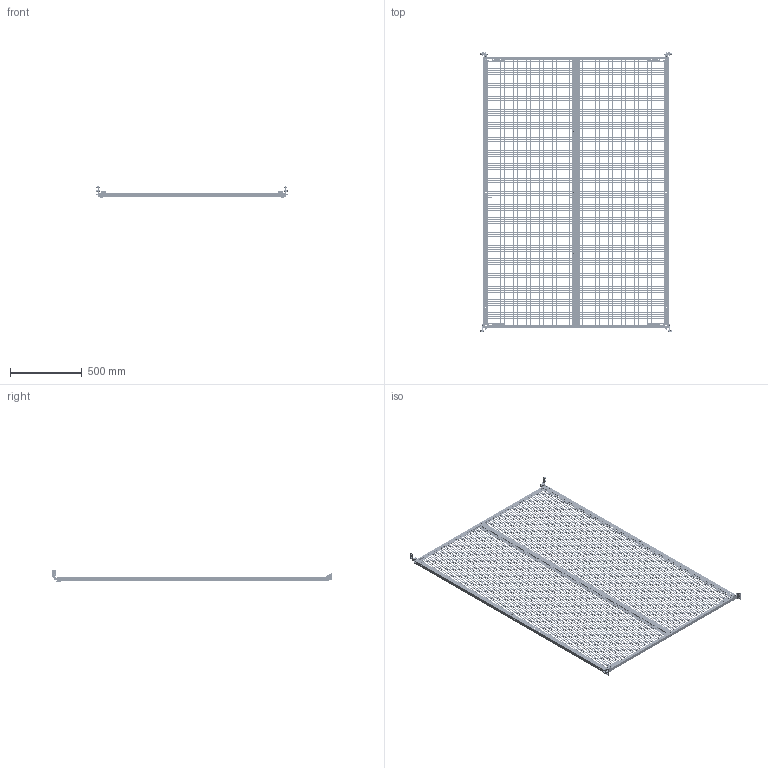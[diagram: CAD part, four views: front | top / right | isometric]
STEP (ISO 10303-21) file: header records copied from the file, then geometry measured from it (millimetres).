
FILE_DESCRIPTION (( 'STEP AP203' ), '1' );
FILE_NAME ('R5NPCEP20140.STEP', '2025-03-26T08:50:50', ( '' ), ( '' ), 'SwSTEP 2.0', 'SolidWorks 2022', '' );
FILE_SCHEMA (( 'CONFIG_CONTROL_DESIGN' ));
Products named in the file (24): RB.2697.00.00.0; RB.2814.00.00.0 СБ_-01; RB.2814.00.01.0; M8x20 DIN 912 HX cl.4,8 Zinc_stright; RB.2684.00.01.0_-01; R5NPCEP20140; RB.2721.00.01.0_-08; RB.2721.00.00.0 СБ_-08; RB.2684.00.01.0; М6 D87181 Zinc_In a tightened position (1.5 mm); RB.2814.00.01.0_-01; RB.2814.00.00.0 СБ; AC00C237; M8 DIN 6923 cl.8,0 Zinc_straight; RB.2709.00.00.0; RB.1499.00.03.0; M6x16 DIN 7985 Torx cl.8,8 Zinc_stright; M6 MGR-MKO-0625_1,5mm (thread); M6x16 DIN 912 HX cl.4,8 Zinc_thread; RB.2684.00.00.0 СБ; RB.2684.00.03.0; RB.0056.00.02.1; RB.2684.00.00.0 СБ_-01; 003-006-19 GOST 9833-73
Assembly tree (57 placements, depth 3):
  R5NPCEP20140
    RB.2814.00.00.0 СБ_-01
      RB.2814.00.01.0_-01
      M6 MGR-MKO-0625_1,5mm (thread)
    RB.2814.00.00.0 СБ
      RB.2814.00.01.0
      M6 MGR-MKO-0625_1,5mm (thread)
    M6x16 DIN 912 HX cl.4,8 Zinc_thread  x2
    AC00C237  x2
    RB.2684.00.00.0 СБ_-01
      RB.2684.00.01.0_-01
      RB.2684.00.03.0
      RB.1499.00.03.0
      RB.2697.00.00.0
      003-006-19 GOST 9833-73  x2
    RB.2684.00.00.0 СБ
      RB.2684.00.01.0
      RB.2684.00.03.0
      RB.1499.00.03.0
      003-006-19 GOST 9833-73  x2
      RB.2697.00.00.0
    M6x16 DIN 7985 Torx cl.8,8 Zinc_stright  x8
    М6 D87181 Zinc_In a tightened position (1.5 mm)  x8
    RB.2709.00.00.0  x2
    RB.2721.00.00.0 СБ_-08
      RB.2721.00.01.0_-08  x2
      RB.0056.00.02.1  x2
      M8 DIN 6923 cl.8,0 Zinc_straight  x5
      M8x20 DIN 912 HX cl.4,8 Zinc_stright  x5
Bounding box: 1328.42 x 1950.46 x 84.5 mm (x, y, z)
Volume: 3722785.7 mm3; surface area: 3896095.1 mm2
Topology: 52 solids, 52 shells, 22138 faces, 65477 edges, 43372 vertices
Faces by surface type: plane 20889, cylinder 537, bspline 316, cone 241, torus 147, sphere 8
Full cylindrical faces by diameter (mm): 0.6 x12, 2.3 x4, 2.5 x4, 3.8 x6, 4 x2, 4.2 x4, 4.92 x14, 5 x8, 6 x64, 6.5 x8, 6.7 x2, 6.8 x5, 7 x12, 7.5 x2, 8 x11, 8.3 x8, 9 x16, 10 x4, 12 x26, 13 x5, 15 x6
Entity records: 362398 total; most frequent: CARTESIAN_POINT 66340, ORIENTED_EDGE 62412, DIRECTION 52596, EDGE_CURVE 31206, LINE 30620, VECTOR 30620, VERTEX_POINT 20853, EDGE_LOOP 15785
